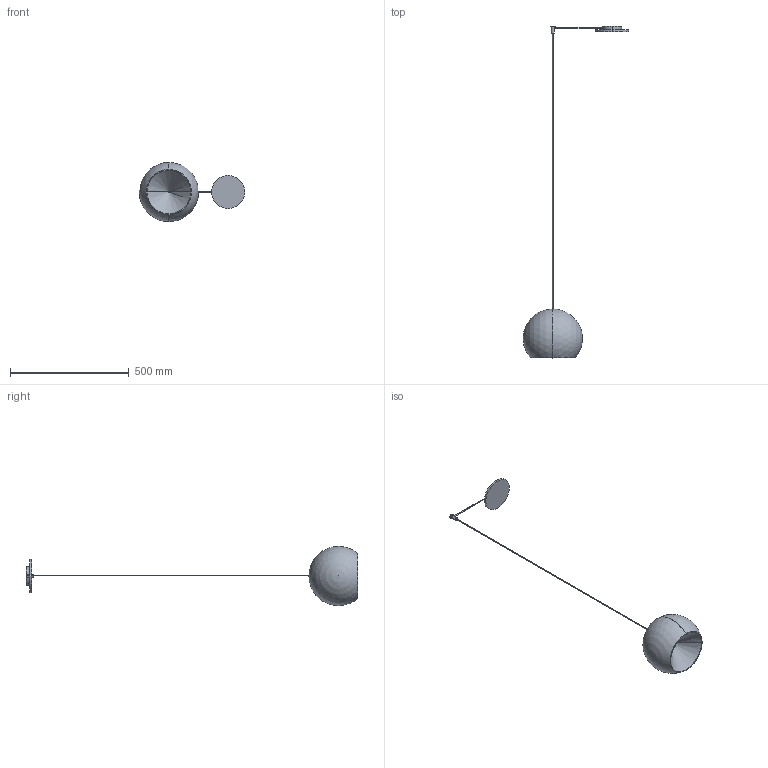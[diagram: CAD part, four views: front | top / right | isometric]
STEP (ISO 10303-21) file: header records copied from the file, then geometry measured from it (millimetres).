
FILE_DESCRIPTION (( 'STEP AP203' ), '1' );
FILE_NAME ('CRM01-00-CHERRY MIX_1 SOSPENSIONE.STEP', '2024-07-31T09:21:28', ( '' ), ( '' ), 'SwSTEP 2.0', 'SolidWorks 2022', '' );
FILE_SCHEMA (( 'CONFIG_CONTROL_DESIGN' ));
Length unit declared in the file: millimetre
Products named in the file (3): CHERRY MIX_Lampada singola Diam.250_H=1600; CRM01-00-CHERRY MIX_1 SOSPENSIONE; CHERRY MIX_Rosone diam.140_Cherry 1<A macchina>
Assembly tree (2 placements, depth 2):
  CRM01-00-CHERRY MIX_1 SOSPENSIONE
    CHERRY MIX_Rosone diam.140_Cherry 1<A macchina>
    CHERRY MIX_Lampada singola Diam.250_H=1600
Bounding box: 445 x 1400 x 249.99 mm (x, y, z)
Volume: 601711.6 mm3; surface area: 461366.4 mm2
Topology: 6 solids, 6 shells, 43 faces, 98 edges, 62 vertices
Faces by surface type: cylinder 20, plane 15, sphere 4, cone 4
Entity records: 1483 total; most frequent: CARTESIAN_POINT 260, DIRECTION 224, ORIENTED_EDGE 168, AXIS2_PLACEMENT_3D 100, EDGE_CURVE 84, VERTEX_POINT 56, CIRCLE 52, EDGE_LOOP 48
